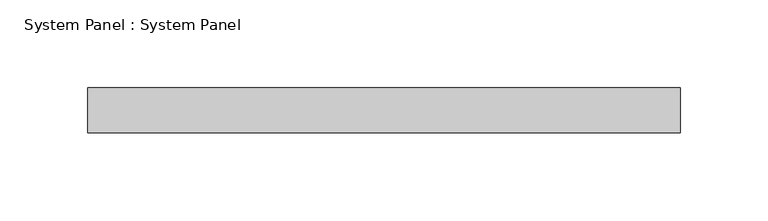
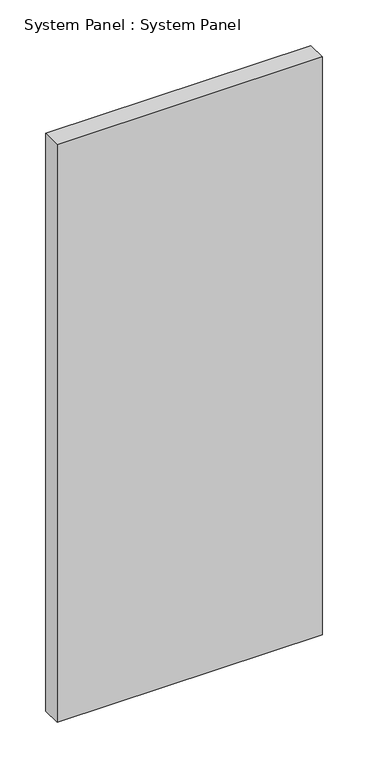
"""IFC4 building model written with IfcOpenShell, lengths in millimetres: plate geometry, System Panel : System Panel."""

from ifc_helpers import new_model, si_unit, origin, origin_with_axes, place, context, project, spatial, polyline, outline, extrude, source, transform, mapped, element, save


def system_panel_system_panel_b5158d26(model_context):
    return source(origin(), model_context, "Body", "SweptSolid", [
        extrude(outline(polyline([(168.275, 19.05), (-168.275, 19.05), (-168.275, 44.45), (168.275, 44.45), (168.275, 19.05)])), origin_with_axes(), (0.0, 0.0, 1.0), 774.7),
    ])


if __name__ == "__main__":
    model = new_model("IFC4")
    model_context = context("Model", 3, world=origin())
    ifc_project = project(units=[si_unit("LENGTHUNIT", "METRE", prefix="MILLI")], contexts=[model_context])
    site = spatial("IfcSite", under=ifc_project)
    building = spatial("IfcBuilding", under=site)
    placement = place(None, origin())
    system_panel_system_panel_shape = system_panel_system_panel_b5158d26(model_context)
    element("IfcPlate", 1, ObjectType="System Panel : System Panel", at=placement, inside=building, context=model_context, shape_type="MappedRepresentation", body=[
        mapped(system_panel_system_panel_shape, transform((0.0, 0.0, 0.0), x_axis=(1.0, 0.0, 0.0), y_axis=(0.0, 1.0, 0.0), z_axis=(0.0, 0.0, 1.0))),
    ])
    save(model, "model.ifc")
